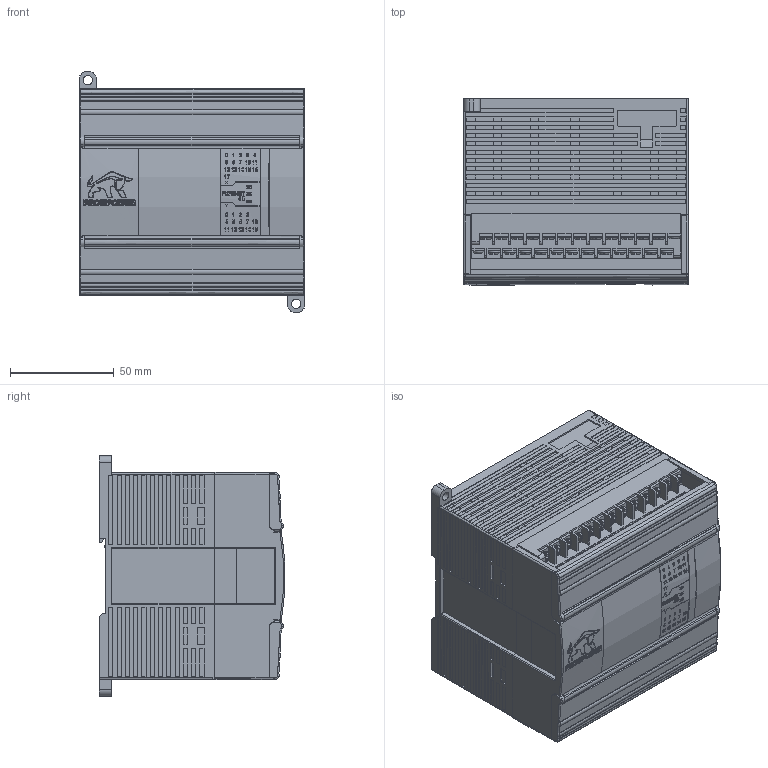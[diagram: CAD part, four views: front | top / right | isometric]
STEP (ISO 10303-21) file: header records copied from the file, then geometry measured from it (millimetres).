
FILE_DESCRIPTION(('STEP AP242'), '1');
FILE_NAME('XD5E-30PT4-E_pmp20_PLC', '', ('UNSPECIFIED'), ('UNSPECIFIED'), 'C3D Converter', 'C3D Toolkit', '');
FILE_SCHEMA(('AP242_MANAGED_MODEL_BASED_3D_ENGINEERING_MIM_LF { 1 0 10303 442 1 1 4 }'));
Length unit declared in the file: millimetre
Products named in the file (1): PMP20-30T4-E PROMPOWER
Bounding box: 108.62 x 89.79 x 116 mm (x, y, z)
Surface area: 115085.9 mm2 (no closed solid volume)
Topology: 0 solids, 62 shells, 2940 faces, 8325 edges, 5638 vertices
Faces by surface type: plane 2333, bspline 263, extrusion 180, cylinder 164
Full cylindrical faces by diameter (mm): 3 x1, 4.3 x2, 5.4 x48
Entity records: 210095 total; most frequent: CARTESIAN_POINT 114249, ORIENTED_EDGE 15806, DIRECTION 12349, EDGE_CURVE 8172, VECTOR 6297, LINE 6117, VERTEX_POINT 5583, EDGE_LOOP 3261
